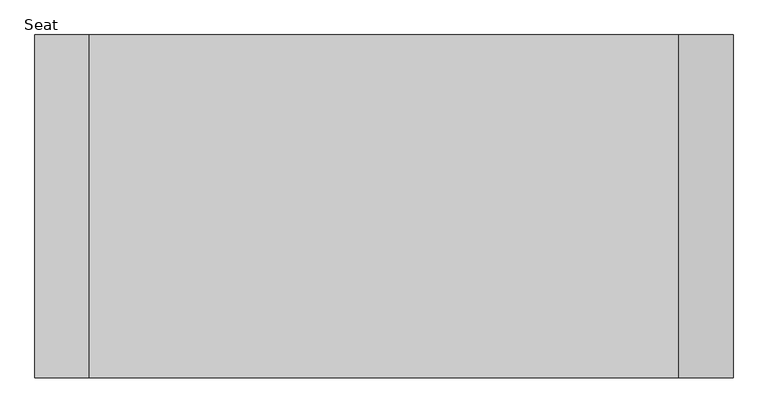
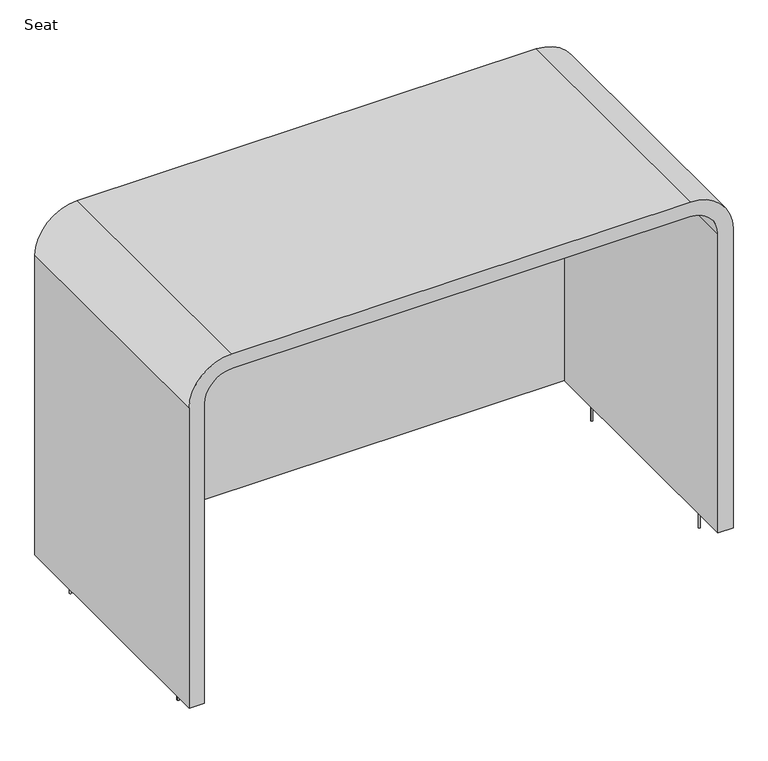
"""IFC4 building model written with IfcOpenShell, lengths in millimetres: furniture geometry, Steelcase Turnstone - Bivi - Seat - Hoodie : Seat."""

import ifcopenshell
import ifcopenshell.guid

model = None  # the IFC model being written
_history = None  # IfcOwnerHistory: only IFC2X3 demands one
_inside = {}  # id of a spatial element -> (the spatial element, [elements in it])
_under = {}  # id of a project, library or spatial element -> (it, [spatial elements below it])
_declared = {}  # id of a project -> (the project, [libraries it declares])
_typed = {}  # id of a type object -> (the type object, [elements of that type])
_made_of = {}  # id of a material, layer set ... -> (it, [elements and type objects made of it])


def new_model(schema):
    """Start an empty IFC model of exactly this schema.

    Asked for "IFC4X3", IfcOpenShell would pick the latest addendum, in which some entities
    have other attributes; the version numbers below select the first issue.
    IFC2X3 requires an IfcOwnerHistory on every rooted entity: one is made here for all.
    """
    global model, _history
    if schema == "IFC4X3":
        model = ifcopenshell.file(schema_version=(4, 3, 0, 0))
    else:
        model = ifcopenshell.file(schema=schema)
    _inside.clear()
    _under.clear()
    _declared.clear()
    _typed.clear()
    _made_of.clear()
    _history = None
    if model.schema == "IFC2X3":
        org = make("IfcOrganization", Name="unknown")
        user = make(
            "IfcPersonAndOrganization",
            ThePerson=make("IfcPerson", FamilyName="unknown"),
            TheOrganization=org,
        )
        app = make(
            "IfcApplication",
            ApplicationDeveloper=org,
            Version="unknown",
            ApplicationFullName="unknown",
            ApplicationIdentifier="unknown",
        )
        _history = make(
            "IfcOwnerHistory",
            OwningUser=user,
            OwningApplication=app,
            ChangeAction="ADDED",
            CreationDate=0,
        )
    return model


def make(cls, **values):
    """One entity of the class cls with the attributes given. An attribute that is None is left unset."""
    return model.create_entity(
        cls, **{name: value for name, value in values.items() if value is not None}
    )


def rooted(cls, **values):
    """An entity with a GlobalId (a new one), such as an element, a storey or a relation."""
    return make(cls, GlobalId=ifcopenshell.guid.new(), OwnerHistory=_history, **values)


def si_unit(unit_type, name, prefix=None):
    """IfcSIUnit, for example si_unit("LENGTHUNIT", "METRE", prefix="MILLI")."""
    return make("IfcSIUnit", UnitType=unit_type, Prefix=prefix, Name=name)


def assignment(units):
    """IfcUnitAssignment: the units of a project."""
    return None if units is None else make("IfcUnitAssignment", Units=units)


def point(xyz):
    """IfcCartesianPoint."""
    return None if xyz is None else make("IfcCartesianPoint", Coordinates=xyz)


def direction(xyz):
    """IfcDirection."""
    return None if xyz is None else make("IfcDirection", DirectionRatios=xyz)


def frame(location, z_axis=None, x_axis=None):
    """IfcAxis2Placement3D, a coordinate frame: its origin and axes. An axis left out is left unset."""
    return make(
        "IfcAxis2Placement3D",
        Location=point(location),
        Axis=direction(z_axis),
        RefDirection=direction(x_axis),
    )


def frame_2d(location, x_axis=None):
    """IfcAxis2Placement2D, a coordinate frame in the plane: its origin and x axis."""
    return make(
        "IfcAxis2Placement2D", Location=point(location), RefDirection=direction(x_axis)
    )


def origin():
    """The frame at (0, 0, 0) with its axes left unset."""
    return frame((0.0, 0.0, 0.0))


def place(relative_to, where):
    """IfcLocalPlacement: puts the frame where relative to a parent placement (None: the world)."""
    return make(
        "IfcLocalPlacement", PlacementRelTo=relative_to, RelativePlacement=where
    )


def context(
    kind, dimensions, precision=None, world=None, true_north=None, identifier=None
):
    """IfcGeometricRepresentationContext, for example the 3D "Model" context."""
    return make(
        "IfcGeometricRepresentationContext",
        ContextIdentifier=identifier,
        ContextType=kind,
        CoordinateSpaceDimension=dimensions,
        Precision=precision,
        WorldCoordinateSystem=world,
        TrueNorth=true_north,
    )


def project(units=None, contexts=None):
    """IfcProject with its units and contexts."""
    return rooted(
        "IfcProject",
        Name="project",
        RepresentationContexts=contexts,
        UnitsInContext=assignment(units),
    )


def spatial(cls, under=None, at=None, **own):
    """A site, building, storey or space (cls), placed at a placement, below another one or the project."""
    s = rooted(cls, ObjectPlacement=at, **own)
    if under is not None:
        _under.setdefault(under.id(), (under, []))[1].append(s)
    return s


def polyline(points):
    """IfcPolyline through the points."""
    return make("IfcPolyline", Points=[point(p) for p in points])


def circle_curve(where, radius):
    """IfcCircle in the frame where."""
    return make("IfcCircle", Position=where, Radius=radius)


def trimmed(basis, trim1, trim2, sense, master):
    """IfcTrimmedCurve: the piece of a basis curve between two trims."""
    return make(
        "IfcTrimmedCurve",
        BasisCurve=basis,
        Trim1=trim1,
        Trim2=trim2,
        SenseAgreement=sense,
        MasterRepresentation=master,
    )


def segment(curve, same_sense, transition):
    """IfcCompositeCurveSegment."""
    return make(
        "IfcCompositeCurveSegment",
        Transition=transition,
        SameSense=same_sense,
        ParentCurve=curve,
    )


def composite_curve(segments, self_intersect=None):
    """IfcCompositeCurve: segments joined end to end."""
    return make("IfcCompositeCurve", Segments=segments, SelfIntersect=self_intersect)


def outline(outer, holes=None, kind="AREA"):
    """IfcArbitraryClosedProfileDef: a profile drawn as a closed curve; with holes, ...WithVoids."""
    if holes is None:
        return make("IfcArbitraryClosedProfileDef", ProfileType=kind, OuterCurve=outer)
    return make(
        "IfcArbitraryProfileDefWithVoids",
        ProfileType=kind,
        OuterCurve=outer,
        InnerCurves=holes,
    )


def extrude(swept, where, along, depth):
    """IfcExtrudedAreaSolid: the profile swept, set in the frame where, extruded along a direction by depth."""
    return make(
        "IfcExtrudedAreaSolid",
        SweptArea=swept,
        Position=where,
        ExtrudedDirection=direction(along),
        Depth=depth,
    )


def shape(context_of_items, identifier, shape_type, items):
    """IfcShapeRepresentation: the items that make up one representation, for example the "Body"."""
    return make(
        "IfcShapeRepresentation",
        ContextOfItems=context_of_items,
        RepresentationIdentifier=identifier,
        RepresentationType=shape_type,
        Items=items,
    )


def source(mapping_origin, context_of_items, identifier, shape_type, items):
    """IfcRepresentationMap: a shape defined once, which mapped items show again and again."""
    return make(
        "IfcRepresentationMap",
        MappingOrigin=mapping_origin,
        MappedRepresentation=shape(context_of_items, identifier, shape_type, items),
    )


def transform(
    local_origin,
    x_axis=None,
    y_axis=None,
    z_axis=None,
    scale=None,
    scale2=None,
    scale3=None,
    uniform=True,
):
    """IfcCartesianTransformationOperator3D, or its non-uniform kind. x_axis, y_axis, z_axis: its Axis1, 2, 3."""
    if uniform:
        return make(
            "IfcCartesianTransformationOperator3D",
            Axis1=direction(x_axis),
            Axis2=direction(y_axis),
            LocalOrigin=point(local_origin),
            Scale=scale,
            Axis3=direction(z_axis),
        )
    return make(
        "IfcCartesianTransformationOperator3DnonUniform",
        Axis1=direction(x_axis),
        Axis2=direction(y_axis),
        LocalOrigin=point(local_origin),
        Scale=scale,
        Axis3=direction(z_axis),
        Scale2=scale2,
        Scale3=scale3,
    )


def mapped(mapping_source, mapping_target):
    """IfcMappedItem: shows the shape of a source again, moved by a transform."""
    return make(
        "IfcMappedItem", MappingSource=mapping_source, MappingTarget=mapping_target
    )


def made_of(thing, what):
    """Note that an element or type object is made of a material, layer set ...; save() writes the relation."""
    if what is not None:
        _made_of.setdefault(what.id(), (what, []))[1].append(thing)
    return thing


def element(
    cls,
    number,
    at=None,
    inside=None,
    cuts=None,
    type_object=None,
    material=None,
    context=None,
    identifier="Body",
    shape_type=None,
    held_by="IfcProductDefinitionShape",
    body=None,
    shapes=None,
    **own,
):
    """One element of the class cls, such as IfcWall. Its Tag is "e" and its number.

    at: its placement. inside: the storey or other place that contains it. cuts: it is an
    opening in that element (IfcRelVoidsElement). A single representation is given by context,
    identifier, shape_type and body (its items); several are given by shapes. held_by: the class
    of the entity that holds the representations. save() writes the other relations.
    """
    e = rooted(cls, Tag="e%d" % number, ObjectPlacement=at, **own)
    if body is not None:
        shapes = [shape(context, identifier, shape_type, body)]
    if shapes is not None:
        e.Representation = make(held_by, Representations=shapes)
    if inside is not None:
        _inside.setdefault(inside.id(), (inside, []))[1].append(e)
    if cuts is not None:
        rooted(
            "IfcRelVoidsElement", RelatingBuildingElement=cuts, RelatedOpeningElement=e
        )
    if type_object is not None:
        _typed.setdefault(type_object.id(), (type_object, []))[1].append(e)
    return made_of(e, material)


def aggregate(whole, parts):
    """IfcRelAggregates: a whole, such as a stair, and the parts it consists of."""
    return rooted("IfcRelAggregates", RelatingObject=whole, RelatedObjects=parts)


def save(model, path):
    """Write the relations noted so far, then the file.

    IfcRelAggregates (storeys below a building ...), IfcRelContainedInSpatialStructure (elements
    in a storey), IfcRelDefinesByType, IfcRelAssociatesMaterial and IfcRelDeclares: one each for
    every whole, place, type object, material and project.
    """
    for whole, parts in _under.values():
        aggregate(whole, parts)
    for where, things in _inside.values():
        rooted(
            "IfcRelContainedInSpatialStructure",
            RelatedElements=things,
            RelatingStructure=where,
        )
    for kind, things in _typed.values():
        rooted("IfcRelDefinesByType", RelatedObjects=things, RelatingType=kind)
    for what, things in _made_of.values():
        rooted("IfcRelAssociatesMaterial", RelatedObjects=things, RelatingMaterial=what)
    for by, libraries in _declared.values():
        rooted("IfcRelDeclares", RelatingContext=by, RelatedDefinitions=libraries)
    model.write(path)


def seat_e1c811f7(model_context):
    return source(origin(), model_context, "Body", "SweptSolid", [
        extrude(outline(composite_curve([segment(trimmed(circle_curve(frame_2d((2332.0156678, 75.7174046)), 2.54), [point((2329.4756678, 75.7174046))], [point((2334.5556678, 75.7174046))], False, "CARTESIAN"), True, "CONTINUOUS"), segment(trimmed(circle_curve(frame_2d((2332.0156678, 75.7174046)), 2.54), [point((2334.5556678, 75.7174046))], [point((2329.4756678, 75.7174046))], False, "CARTESIAN"), True, "CONTINUOUS")], self_intersect=False)), frame((0.0, 0.0, 673.1), z_axis=(0.0, 0.0, 1.0), x_axis=(1.0, 0.0, 0.0)), (0.0, 0.0, 1.0), 50.8),
        extrude(outline(composite_curve([segment(trimmed(circle_curve(frame_2d((3734.4015503, 75.7174046)), 2.54), [point((3736.9415503, 75.7174046))], [point((3731.8615503, 75.7174046))], False, "CARTESIAN"), True, "CONTINUOUS"), segment(trimmed(circle_curve(frame_2d((3734.4015503, 75.7174046)), 2.54), [point((3731.8615503, 75.7174046))], [point((3736.9415503, 75.7174046))], False, "CARTESIAN"), True, "CONTINUOUS")], self_intersect=False)), frame((0.0, 0.0, 673.1), z_axis=(0.0, 0.0, 1.0), x_axis=(1.0, 0.0, 0.0)), (0.0, 0.0, 1.0), 50.8),
        extrude(outline(composite_curve([segment(trimmed(circle_curve(frame_2d((2332.0156678, -425.9325954)), 2.54), [point((2329.4756678, -425.9325954))], [point((2334.5556678, -425.9325954))], False, "CARTESIAN"), True, "CONTINUOUS"), segment(trimmed(circle_curve(frame_2d((2332.0156678, -425.9325954)), 2.54), [point((2334.5556678, -425.9325954))], [point((2329.4756678, -425.9325954))], False, "CARTESIAN"), True, "CONTINUOUS")], self_intersect=False)), frame((0.0, 0.0, 673.1), z_axis=(0.0, 0.0, 1.0), x_axis=(1.0, 0.0, 0.0)), (0.0, 0.0, 1.0), 50.8),
        extrude(outline(composite_curve([segment(trimmed(circle_curve(frame_2d((3734.4015503, -425.9325954)), 2.54), [point((3736.9415503, -425.9325954))], [point((3731.8615503, -425.9325954))], False, "CARTESIAN"), True, "CONTINUOUS"), segment(trimmed(circle_curve(frame_2d((3734.4015503, -425.9325954)), 2.54), [point((3731.8615503, -425.9325954))], [point((3736.9415503, -425.9325954))], False, "CARTESIAN"), True, "CONTINUOUS")], self_intersect=False)), frame((0.0, 0.0, 673.1), z_axis=(0.0, 0.0, 1.0), x_axis=(1.0, 0.0, 0.0)), (0.0, 0.0, 1.0), 50.8),
        extrude(outline(composite_curve([segment(polyline([(1574.8, 2342.201609), (723.9, 2342.201609), (723.9, 3724.215609), (1574.8, 3724.215609)]), True, "CONTINUOUS"), segment(trimmed(circle_curve(frame_2d((1574.8, 3648.015609)), 76.2), [point((1574.8, 3724.215609))], [point((1651.0, 3648.015609))], False, "CARTESIAN"), True, "CONTINUOUS"), segment(polyline([(1651.0, 3648.015609), (1651.0, 2418.401609)]), True, "CONTINUOUS"), segment(trimmed(circle_curve(frame_2d((1574.8, 2418.401609)), 76.2), [point((1651.0, 2418.401609))], [point((1574.8, 2342.201609))], False, "CARTESIAN"), True, "CONTINUOUS")], self_intersect=False)), frame((0.0, 185.8772046, 0.0), z_axis=(0.0, 1.0, 0.0), x_axis=(0.0, 0.0, 1.0)), (0.0, 0.0, 1.0), 2.54),
        extrude(outline(composite_curve([segment(trimmed(circle_curve(frame_2d((1574.8, 2418.401609)), 76.2), [point((1574.8, 2342.201609))], [point((1651.0, 2418.401609))], True, "CARTESIAN"), True, "CONTINUOUS"), segment(polyline([(1651.0, 2418.401609), (1651.0, 3648.015609)]), True, "CONTINUOUS"), segment(trimmed(circle_curve(frame_2d((1574.8, 3648.015609)), 76.2), [point((1651.0, 3648.015609))], [point((1574.8, 3724.215609))], True, "CARTESIAN"), True, "CONTINUOUS"), segment(polyline([(1574.8, 3724.215609), (723.9, 3724.215609), (723.9, 3764.855609), (1577.34, 3764.855609)]), True, "CONTINUOUS"), segment(trimmed(circle_curve(frame_2d((1577.34, 3650.555609)), 114.3), [point((1577.34, 3764.855609))], [point((1691.64, 3650.555609))], False, "CARTESIAN"), True, "CONTINUOUS"), segment(polyline([(1691.64, 3650.555609), (1691.64, 2415.861609)]), True, "CONTINUOUS"), segment(trimmed(circle_curve(frame_2d((1577.34, 2415.861609)), 114.3), [point((1691.64, 2415.861609))], [point((1577.34, 2301.561609))], False, "CARTESIAN"), True, "CONTINUOUS"), segment(polyline([(1577.34, 2301.561609), (723.9, 2301.561609), (723.9, 2342.201609), (1574.8, 2342.201609)]), True, "CONTINUOUS")], self_intersect=False)), frame((0.0, -530.4027954, 0.0), z_axis=(0.0, 1.0, 0.0), x_axis=(0.0, 0.0, 1.0)), (0.0, 0.0, 1.0), 718.82),
    ])


if __name__ == "__main__":
    model = new_model("IFC4")
    model_context = context("Model", 3, world=origin())
    ifc_project = project(units=[si_unit("LENGTHUNIT", "METRE", prefix="MILLI")], contexts=[model_context])
    site = spatial("IfcSite", under=ifc_project)
    building = spatial("IfcBuilding", under=site)
    placement = place(None, origin())
    seat_shape = seat_e1c811f7(model_context)
    element("IfcFurniture", 1, ObjectType="Steelcase Turnstone - Bivi - Seat - Hoodie : Seat", at=placement, inside=building, context=model_context, shape_type="MappedRepresentation", body=[
        mapped(seat_shape, transform((0.0, 0.0, 0.0), x_axis=(1.0, 0.0, 0.0), y_axis=(0.0, 1.0, 0.0), z_axis=(0.0, 0.0, 1.0))),
    ])
    save(model, "model.ifc")
